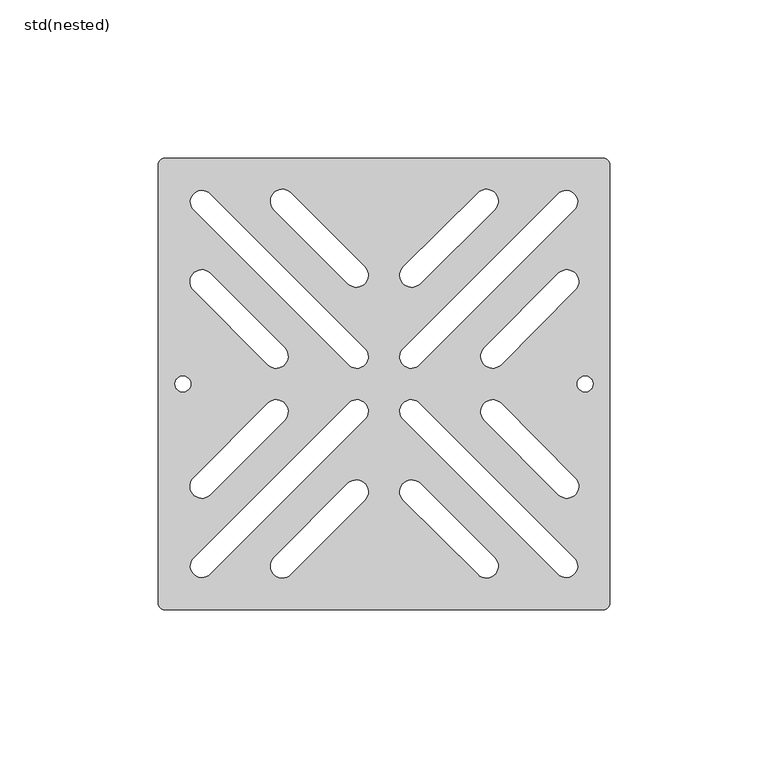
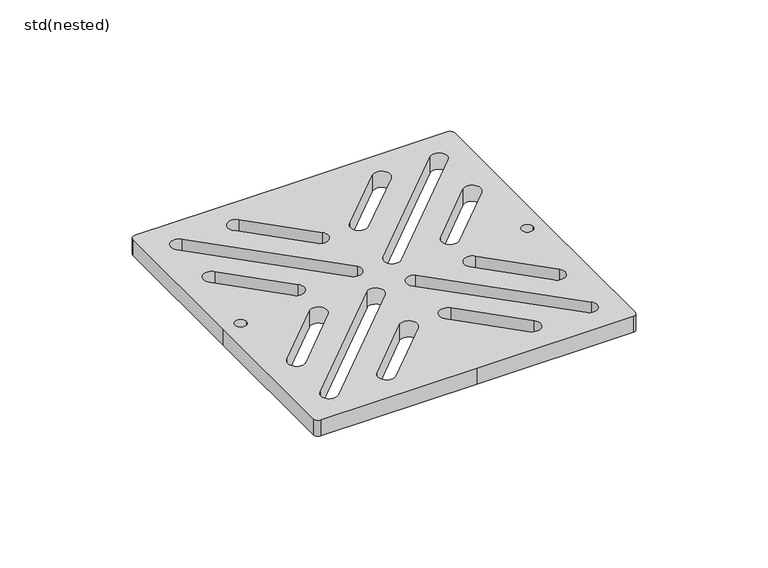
"""IFC4 building model written with IfcOpenShell, lengths in millimetres: sanitary terminal geometry, ZZZ_do not use_PF_ST_UN_grating_ACO : std(nested)."""

from ifc_helpers import new_model, si_unit, point, frame, frame_2d, origin, place, context, project, spatial, polyline, circle_curve, trimmed, segment, composite_curve, outline, extrude, source, transform, mapped, element, save


def std_nested_1ac996cf(model_context):
    return source(origin(), model_context, "Body", "SweptSolid", [
        extrude(outline(composite_curve([segment(polyline([(-71.25, 0.0), (-71.25, 69.25)]), True, "CONTINUOUS"), segment(trimmed(circle_curve(frame_2d((-69.25, 69.25)), 2.0), [point((-71.25, 69.25))], [point((-69.25, 71.25))], False, "CARTESIAN"), True, "CONTINUOUS"), segment(polyline([(-69.25, 71.25), (0.0, 71.25), (69.25, 71.25)]), True, "CONTINUOUS"), segment(trimmed(circle_curve(frame_2d((69.25, 69.25)), 2.0), [point((69.25, 71.25))], [point((71.25, 69.25))], False, "CARTESIAN"), True, "CONTINUOUS"), segment(polyline([(71.25, 69.25), (71.25, 0.0), (71.25, -69.25)]), True, "CONTINUOUS"), segment(trimmed(circle_curve(frame_2d((69.25, -69.25)), 2.0), [point((71.25, -69.25))], [point((69.25, -71.25))], False, "CARTESIAN"), True, "CONTINUOUS"), segment(polyline([(69.25, -71.25), (0.0, -71.25), (-69.25, -71.25)]), True, "CONTINUOUS"), segment(trimmed(circle_curve(frame_2d((-69.25, -69.25)), 2.0), [point((-69.25, -71.25))], [point((-71.25, -69.25))], False, "CARTESIAN"), True, "CONTINUOUS"), segment(polyline([(-71.25, -69.25), (-71.25, 0.0)]), True, "CONTINUOUS")], self_intersect=False), holes=[composite_curve([segment(trimmed(circle_curve(frame_2d((-8.6046339, 8.5962913)), 3.6326781), [point((-10.8064523, 5.7069409))], [point((-5.7152835, 10.7981097))], True, "CARTESIAN"), True, "CONTINUOUS"), segment(polyline([(-5.7152835, 10.7981097), (-54.9627582, 60.0455844)]), True, "CONTINUOUS"), segment(trimmed(circle_curve(frame_2d((-57.5083426, 57.5)), 3.6), [point((-54.9627582, 60.0455844))], [point((-60.053927, 54.9544156))], True, "CARTESIAN"), True, "CONTINUOUS"), segment(polyline([(-60.053927, 54.9544156), (-10.8064523, 5.7069409)]), True, "CONTINUOUS")], self_intersect=False), composite_curve([segment(polyline([(-34.7443435, 55.0983496), (-11.3710637, 31.6452065)]), True, "CONTINUOUS"), segment(trimmed(circle_curve(frame_2d((-8.7289965, 34.3064401)), 3.7500245), [point((-11.3710637, 31.6452065))], [point((-6.0677628, 36.9485074))], True, "CARTESIAN"), True, "CONTINUOUS"), segment(polyline([(-6.0677628, 36.9485074), (-29.4410427, 60.4016504)]), True, "CONTINUOUS"), segment(trimmed(circle_curve(frame_2d((-32.0831099, 57.7404168)), 3.7500245), [point((-29.4410427, 60.4016504))], [point((-34.7443435, 55.0983496))], True, "CARTESIAN"), True, "CONTINUOUS")], self_intersect=False), composite_curve([segment(polyline([(-31.3952065, 11.3710637), (-54.8483496, 34.9943435)]), True, "CONTINUOUS"), segment(trimmed(circle_curve(frame_2d((-57.4904168, 32.3331099)), 3.7500245), [point((-54.8483496, 34.9943435))], [point((-60.1516504, 29.6910427))], True, "CARTESIAN"), True, "CONTINUOUS"), segment(polyline([(-60.1516504, 29.6910427), (-36.6985074, 6.0677628)]), True, "CONTINUOUS"), segment(trimmed(circle_curve(frame_2d((-34.0564401, 8.7289965)), 3.7500245), [point((-36.6985074, 6.0677628))], [point((-31.3952065, 11.3710637))], True, "CARTESIAN"), True, "CONTINUOUS")], self_intersect=False), composite_curve([segment(polyline([(-10.8064523, -5.7069409), (-60.053927, -54.9544156)]), True, "CONTINUOUS"), segment(trimmed(circle_curve(frame_2d((-57.5083426, -57.5)), 3.6), [point((-60.053927, -54.9544156))], [point((-54.9627582, -60.0455844))], True, "CARTESIAN"), True, "CONTINUOUS"), segment(polyline([(-54.9627582, -60.0455844), (-5.7152835, -10.7981097)]), True, "CONTINUOUS"), segment(trimmed(circle_curve(frame_2d((-8.6046339, -8.5962913)), 3.6326781), [point((-5.7152835, -10.7981097))], [point((-10.8064523, -5.7069409))], True, "CARTESIAN"), True, "CONTINUOUS")], self_intersect=False), composite_curve([segment(trimmed(circle_curve(frame_2d((-32.0831099, -57.4904168)), 3.7500245), [point((-34.7443435, -54.8483496))], [point((-29.4410427, -60.1516504))], True, "CARTESIAN"), True, "CONTINUOUS"), segment(polyline([(-29.4410427, -60.1516504), (-6.0677628, -36.6985074)]), True, "CONTINUOUS"), segment(trimmed(circle_curve(frame_2d((-8.7289965, -34.0564401)), 3.7500245), [point((-6.0677628, -36.6985074))], [point((-11.3710637, -31.3952065))], True, "CARTESIAN"), True, "CONTINUOUS"), segment(polyline([(-11.3710637, -31.3952065), (-34.7443435, -54.8483496)]), True, "CONTINUOUS")], self_intersect=False), composite_curve([segment(trimmed(circle_curve(frame_2d((-34.0564401, -8.7289965)), 3.7500245), [point((-31.3952065, -11.3710637))], [point((-36.6985074, -6.0677628))], True, "CARTESIAN"), True, "CONTINUOUS"), segment(polyline([(-36.6985074, -6.0677628), (-60.1516504, -29.6910427)]), True, "CONTINUOUS"), segment(trimmed(circle_curve(frame_2d((-57.4904168, -32.3331099)), 3.7500245), [point((-60.1516504, -29.6910427))], [point((-54.8483496, -34.9943435))], True, "CARTESIAN"), True, "CONTINUOUS"), segment(polyline([(-54.8483496, -34.9943435), (-31.3952065, -11.3710637)]), True, "CONTINUOUS")], self_intersect=False), composite_curve([segment(polyline([(10.8064523, 5.7069409), (60.053927, 54.9544156)]), True, "CONTINUOUS"), segment(trimmed(circle_curve(frame_2d((57.5083426, 57.5)), 3.6), [point((60.053927, 54.9544156))], [point((54.9627582, 60.0455844))], True, "CARTESIAN"), True, "CONTINUOUS"), segment(polyline([(54.9627582, 60.0455844), (5.7152835, 10.7981097)]), True, "CONTINUOUS"), segment(trimmed(circle_curve(frame_2d((8.6046339, 8.5962913)), 3.6326781), [point((5.7152835, 10.7981097))], [point((10.8064523, 5.7069409))], True, "CARTESIAN"), True, "CONTINUOUS")], self_intersect=False), composite_curve([segment(trimmed(circle_curve(frame_2d((32.3331099, 57.7404168)), 3.7500245), [point((34.9943435, 55.0983496))], [point((29.6910427, 60.4016504))], True, "CARTESIAN"), True, "CONTINUOUS"), segment(polyline([(29.6910427, 60.4016504), (6.0677628, 36.9485074)]), True, "CONTINUOUS"), segment(trimmed(circle_curve(frame_2d((8.7289965, 34.3064401)), 3.7500245), [point((6.0677628, 36.9485074))], [point((11.3710637, 31.6452065))], True, "CARTESIAN"), True, "CONTINUOUS"), segment(polyline([(11.3710637, 31.6452065), (34.9943435, 55.0983496)]), True, "CONTINUOUS")], self_intersect=False), composite_curve([segment(trimmed(circle_curve(frame_2d((34.3064401, 8.7289965)), 3.7500245), [point((31.6452065, 11.3710637))], [point((36.9485074, 6.0677628))], True, "CARTESIAN"), True, "CONTINUOUS"), segment(polyline([(36.9485074, 6.0677628), (60.4016504, 29.6910427)]), True, "CONTINUOUS"), segment(trimmed(circle_curve(frame_2d((57.7404168, 32.3331099)), 3.7500245), [point((60.4016504, 29.6910427))], [point((55.0983496, 34.9943435))], True, "CARTESIAN"), True, "CONTINUOUS"), segment(polyline([(55.0983496, 34.9943435), (31.6452065, 11.3710637)]), True, "CONTINUOUS")], self_intersect=False), composite_curve([segment(trimmed(circle_curve(frame_2d((8.6046339, -8.5962913)), 3.6326781), [point((10.8064523, -5.7069409))], [point((5.7152835, -10.7981097))], True, "CARTESIAN"), True, "CONTINUOUS"), segment(polyline([(5.7152835, -10.7981097), (54.9627582, -60.0455844)]), True, "CONTINUOUS"), segment(trimmed(circle_curve(frame_2d((57.5083426, -57.5)), 3.6), [point((54.9627582, -60.0455844))], [point((60.053927, -54.9544156))], True, "CARTESIAN"), True, "CONTINUOUS"), segment(polyline([(60.053927, -54.9544156), (10.8064523, -5.7069409)]), True, "CONTINUOUS")], self_intersect=False), composite_curve([segment(polyline([(34.9943435, -54.8483496), (11.3710637, -31.3952065)]), True, "CONTINUOUS"), segment(trimmed(circle_curve(frame_2d((8.7289965, -34.0564401)), 3.7500245), [point((11.3710637, -31.3952065))], [point((6.0677628, -36.6985074))], True, "CARTESIAN"), True, "CONTINUOUS"), segment(polyline([(6.0677628, -36.6985074), (29.6910427, -60.1516504)]), True, "CONTINUOUS"), segment(trimmed(circle_curve(frame_2d((32.3331099, -57.4904168)), 3.7500245), [point((29.6910427, -60.1516504))], [point((34.9943435, -54.8483496))], True, "CARTESIAN"), True, "CONTINUOUS")], self_intersect=False), composite_curve([segment(polyline([(31.6452065, -11.3710637), (55.0983496, -34.9943435)]), True, "CONTINUOUS"), segment(trimmed(circle_curve(frame_2d((57.7404168, -32.3331099)), 3.7500245), [point((55.0983496, -34.9943435))], [point((60.4016504, -29.6910427))], True, "CARTESIAN"), True, "CONTINUOUS"), segment(polyline([(60.4016504, -29.6910427), (36.9485074, -6.0677628)]), True, "CONTINUOUS"), segment(trimmed(circle_curve(frame_2d((34.3064401, -8.7289965)), 3.7500245), [point((36.9485074, -6.0677628))], [point((31.6452065, -11.3710637))], True, "CARTESIAN"), True, "CONTINUOUS")], self_intersect=False), composite_curve([segment(trimmed(circle_curve(frame_2d((-63.5, 0.0)), 2.5), [point((-66.0, 0.0))], [point((-61.0, 0.0))], True, "CARTESIAN"), True, "CONTINUOUS"), segment(trimmed(circle_curve(frame_2d((-63.5, 0.0)), 2.5), [point((-61.0, 0.0))], [point((-66.0, 0.0))], True, "CARTESIAN"), True, "CONTINUOUS")], self_intersect=False), composite_curve([segment(trimmed(circle_curve(frame_2d((63.5, 0.0)), 2.5), [point((61.0, 0.0))], [point((66.0, 0.0))], True, "CARTESIAN"), True, "CONTINUOUS"), segment(trimmed(circle_curve(frame_2d((63.5, 0.0)), 2.5), [point((66.0, 0.0))], [point((61.0, 0.0))], True, "CARTESIAN"), True, "CONTINUOUS")], self_intersect=False)]), frame((0.0, 0.0, -7.5), z_axis=(0.0, 0.0, 1.0), x_axis=(1.0, 0.0, 0.0)), (0.0, 0.0, 1.0), 7.5),
    ])


if __name__ == "__main__":
    model = new_model("IFC4")
    model_context = context("Model", 3, world=origin())
    ifc_project = project(units=[si_unit("LENGTHUNIT", "METRE", prefix="MILLI")], contexts=[model_context])
    site = spatial("IfcSite", under=ifc_project)
    building = spatial("IfcBuilding", under=site)
    placement = place(None, origin())
    std_nested_shape = std_nested_1ac996cf(model_context)
    element("IfcSanitaryTerminal", 1, ObjectType="ZZZ_do not use_PF_ST_UN_grating_ACO : std(nested)", at=placement, inside=building, context=model_context, shape_type="MappedRepresentation", body=[
        mapped(std_nested_shape, transform((0.0, 0.0, 0.0), x_axis=(1.0, 0.0, 0.0), y_axis=(0.0, 1.0, 0.0), z_axis=(0.0, 0.0, 1.0))),
    ])
    save(model, "model.ifc")
